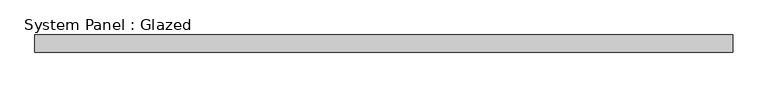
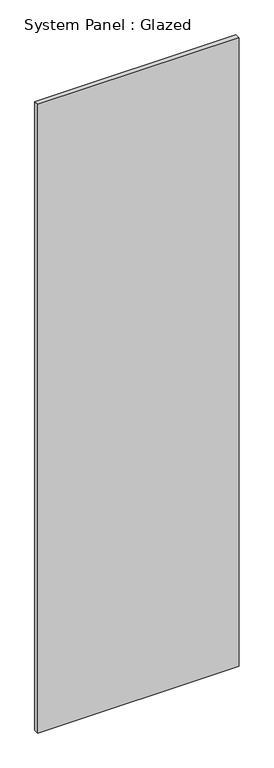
"""IFC4 building model written with IfcOpenShell, lengths in millimetres: plate geometry, System Panel : Glazed."""

from ifc_helpers import new_model, si_unit, origin, origin_with_axes, place, context, project, spatial, polyline, outline, extrude, source, transform, mapped, element, save


def system_panel_glazed_2528ea48(model_context):
    return source(origin(), model_context, "Body", "SweptSolid", [
        extrude(outline(polyline([(500.0, 24.5), (-500.0, 24.5), (-500.0, 49.5), (500.0, 49.5), (500.0, 24.5)])), origin_with_axes(), (0.0, 0.0, 1.0), 3300.0),
    ])


if __name__ == "__main__":
    model = new_model("IFC4")
    model_context = context("Model", 3, world=origin())
    ifc_project = project(units=[si_unit("LENGTHUNIT", "METRE", prefix="MILLI")], contexts=[model_context])
    site = spatial("IfcSite", under=ifc_project)
    building = spatial("IfcBuilding", under=site)
    placement = place(None, origin())
    system_panel_glazed_shape = system_panel_glazed_2528ea48(model_context)
    element("IfcPlate", 1, ObjectType="System Panel : Glazed", at=placement, inside=building, context=model_context, shape_type="MappedRepresentation", body=[
        mapped(system_panel_glazed_shape, transform((0.0, 0.0, 0.0), x_axis=(1.0, 0.0, 0.0), y_axis=(0.0, 1.0, 0.0), z_axis=(0.0, 0.0, 1.0))),
    ])
    save(model, "model.ifc")
